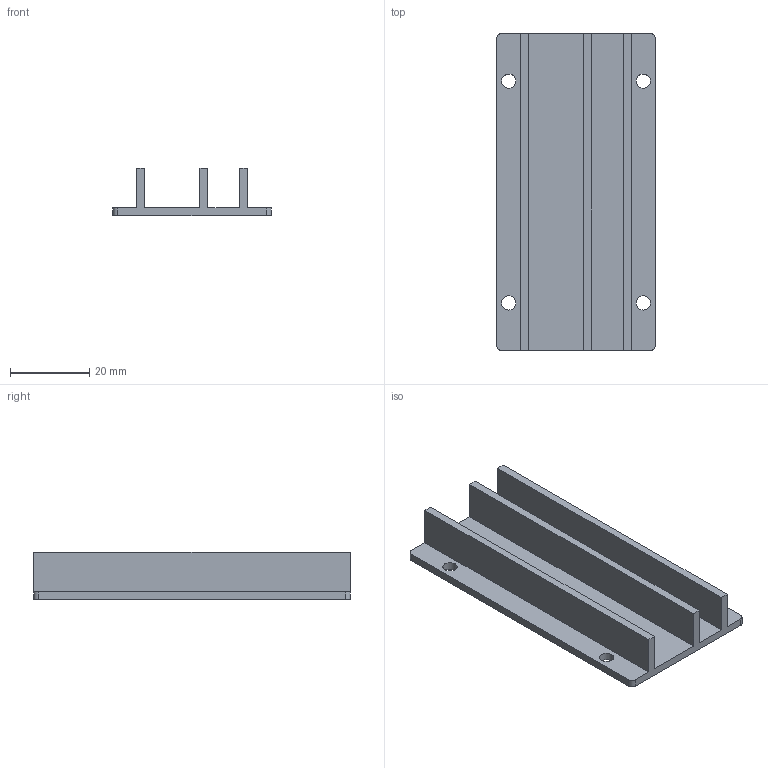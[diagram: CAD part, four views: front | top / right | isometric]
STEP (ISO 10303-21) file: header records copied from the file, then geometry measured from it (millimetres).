
FILE_DESCRIPTION(('Open CASCADE Model'),'2;1');
FILE_NAME('Open CASCADE Shape Model','2026-09-20T03:57:46',('Author'),( 'Open CASCADE'),'Open CASCADE STEP processor 7.9','Open CASCADE 7.9' ,'Unknown');
FILE_SCHEMA(('AUTOMOTIVE_DESIGN { 1 0 10303 214 1 1 1 1 }'));
Length unit declared in the file: millimetre
Products named in the file (1): Open CASCADE STEP translator 7.9 1
Bounding box: 40 x 80 x 12 mm (x, y, z)
Volume: 11116.1 mm3; surface area: 11802.5 mm2
Topology: 1 solids, 1 shells, 26 faces, 72 edges, 48 vertices
Faces by surface type: plane 18, cylinder 8
Full cylindrical faces by diameter (mm): 3.6 x4
Entity records: 1798 total; most frequent: CARTESIAN_POINT 359, DIRECTION 258, LINE 164, VECTOR 164, ORIENTED_EDGE 144, PCURVE 144, DEFINITIONAL_REPRESENTATION 144, EDGE_CURVE 72
